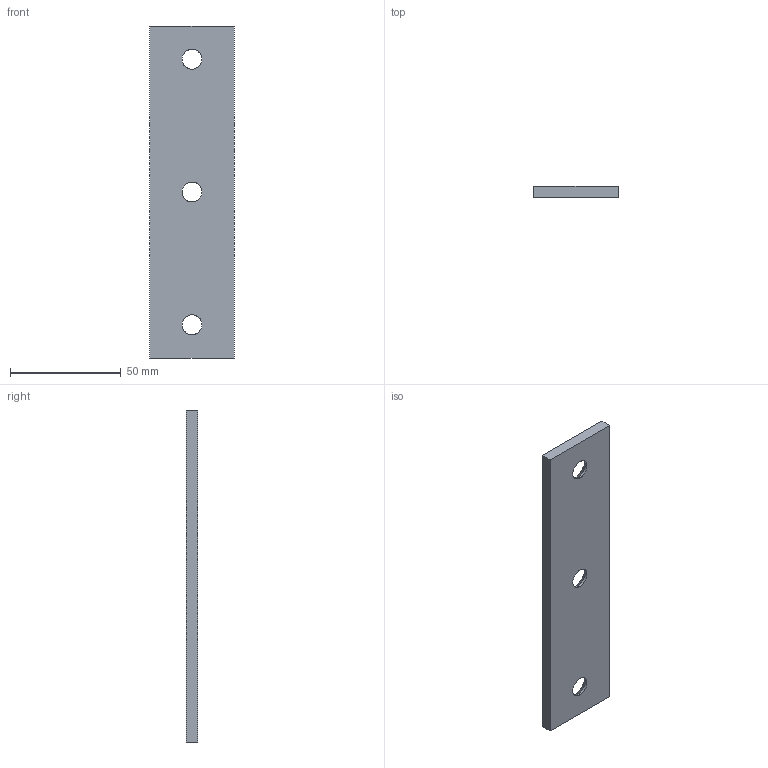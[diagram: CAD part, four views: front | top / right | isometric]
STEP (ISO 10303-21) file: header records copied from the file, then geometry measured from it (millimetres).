
FILE_DESCRIPTION(('CATIA V5 STEP Exchange'),'2;1');
FILE_NAME('C:\Users\Utente\Desktop\3D files A605\A605-038-150.stp','2020-04-13T15:44:28+00:00',('none'),('none'),'CATIA Version 5 Release 20 GA (IN-10)','CATIA V5 STEP AP203','none');
FILE_SCHEMA(('CONFIG_CONTROL_DESIGN'));
Length unit declared in the file: millimetre
Products named in the file (1): Noname
Bounding box: 38 x 5 x 150 mm (x, y, z)
Surface area: 13186.1 mm2 (no closed solid volume)
Topology: 0 solids, 12 shells, 18 faces, 72 edges, 60 vertices
Faces by surface type: extrusion 6, cylinder 6, revolution 6
Entity records: 936 total; most frequent: CARTESIAN_POINT 319, DIRECTION 84, ORIENTED_EDGE 84, EDGE_CURVE 72, VERTEX_POINT 60, VECTOR 42, LINE 36, AXIS2_PLACEMENT_3D 31
